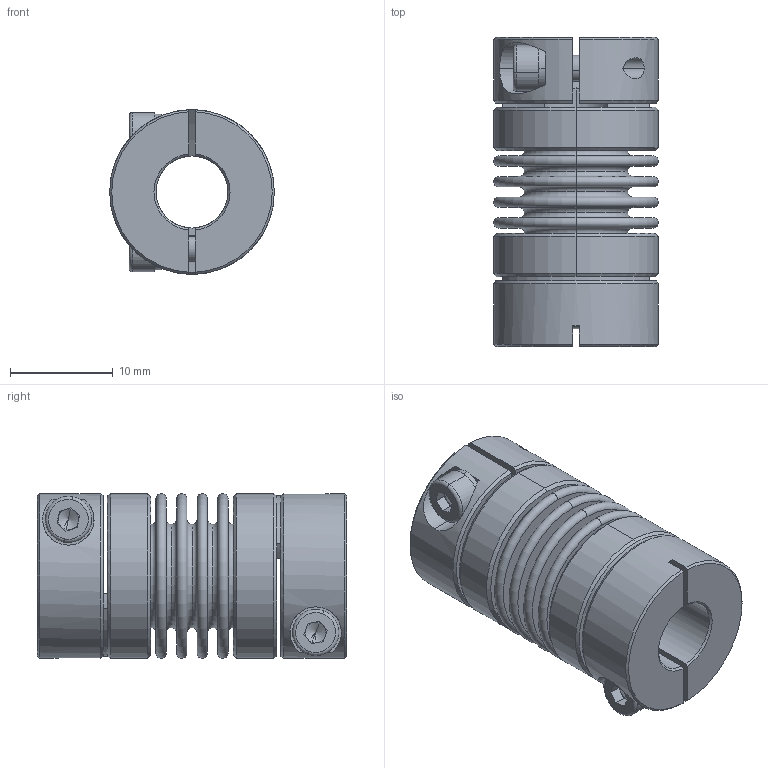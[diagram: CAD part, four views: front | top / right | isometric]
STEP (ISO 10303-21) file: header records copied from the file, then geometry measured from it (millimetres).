
FILE_DESCRIPTION (( 'STEP AP203' ), '1' );
FILE_NAME ('LB-B-D16L30-7-7.STEP', '2021-11-04T01:15:50', ( '' ), ( '' ), 'SwSTEP 2.0', 'SolidWorks 2018', '' );
FILE_SCHEMA (( 'CONFIG_CONTROL_DESIGN' ));
Length unit declared in the file: millimetre
Products named in the file (2): 零件1^LB-B-D16L30 波纹管联轴器-组装体; LB-B-D16L30-7-7
Assembly tree (1 placements, depth 2):
  LB-B-D16L30-7-7
    零件1^LB-B-D16L30 波纹管联轴器-组装体
Bounding box: 16 x 30.04 x 16 mm (x, y, z)
Volume: 2947.2 mm3; surface area: 6409.1 mm2
Topology: 1 solids, 1 shells, 254 faces, 586 edges, 362 vertices
Faces by surface type: plane 86, torus 68, cylinder 66, cone 34
Entity records: 7660 total; most frequent: CARTESIAN_POINT 1472, DIRECTION 1420, ORIENTED_EDGE 1164, AXIS2_PLACEMENT_3D 622, EDGE_CURVE 582, CIRCLE 364, VERTEX_POINT 362, EDGE_LOOP 296
